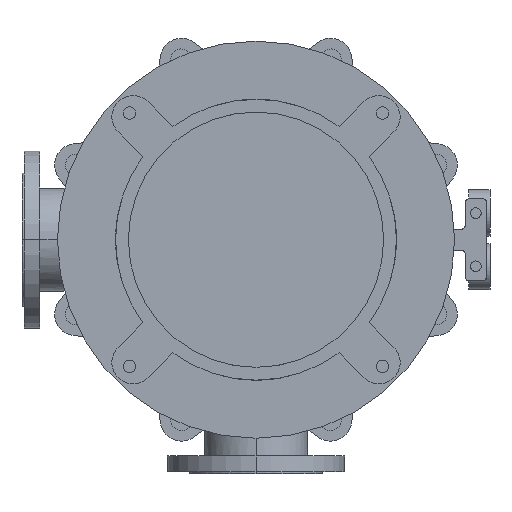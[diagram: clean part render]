
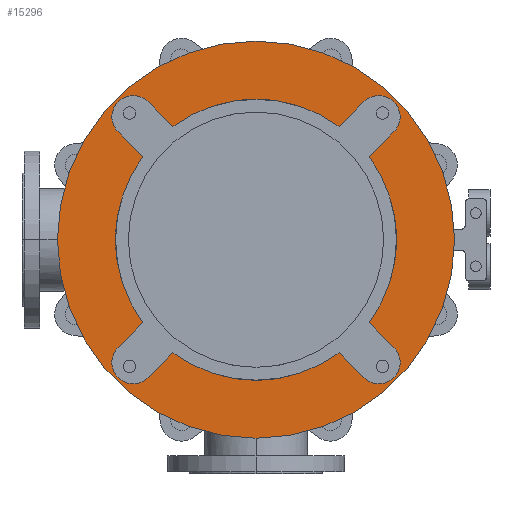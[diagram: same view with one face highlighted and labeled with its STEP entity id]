
A CAD part, front view. The second image highlights one B-rep face of the part: STEP entity #15296.
In plain terms, the highlighted planar face has unit normal (0, -1, 0).
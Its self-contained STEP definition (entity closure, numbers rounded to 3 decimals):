
#4273=CARTESIAN_POINT('',(0.,-25.,0.));
#4274=DIRECTION('',(0.,1.,0.));
#4275=DIRECTION('',(0.592,0.,-0.806));
#4276=AXIS2_PLACEMENT_3D('',#4273,#4274,#4275);
#4291=CARTESIAN_POINT('',(0.,-25.,0.));
#4292=DIRECTION('',(0.,1.,0.));
#4293=DIRECTION('',(0.806,0.,0.592));
#4294=AXIS2_PLACEMENT_3D('',#4291,#4292,#4293);
#4318=CARTESIAN_POINT('',(0.,-25.,0.));
#4319=DIRECTION('',(0.,1.,0.));
#4320=DIRECTION('',(-0.806,0.,-0.592));
#4321=AXIS2_PLACEMENT_3D('',#4318,#4319,#4320);
#4327=CARTESIAN_POINT('',(0.,-25.,0.));
#4328=DIRECTION('',(0.,1.,0.));
#4329=DIRECTION('',(-0.592,0.,0.806));
#4330=AXIS2_PLACEMENT_3D('',#4327,#4328,#4329);
#4505=CARTESIAN_POINT('',(0.,-25.,0.));
#4506=DIRECTION('',(0.,-1.,0.));
#4507=DIRECTION('',(-1.,0.,0.));
#4508=AXIS2_PLACEMENT_3D('',#4505,#4506,#4507);
#4510=CARTESIAN_POINT('',(0.,-25.,0.));
#4511=DIRECTION('',(0.,1.,0.));
#4512=DIRECTION('',(-1.,0.,0.));
#4513=AXIS2_PLACEMENT_3D('',#4510,#4511,#4512);
#4515=CARTESIAN_POINT('',(-173.241,-25.,173.241));
#4516=DIRECTION('',(0.,-1.,0.));
#4517=DIRECTION('',(0.707,0.,0.707));
#4518=AXIS2_PLACEMENT_3D('',#4515,#4516,#4517);
#4520=DIRECTION('',(0.707,0.,-0.707));
#4521=VECTOR('',#4520,49.286);
#4522=CARTESIAN_POINT('',(-194.454,-25.,152.028));
#4523=LINE('',#4522,#4521);
#4524=DIRECTION('',(-0.707,0.,-0.707));
#4525=VECTOR('',#4524,49.286);
#4526=CARTESIAN_POINT('',(-159.604,-25.,-117.178));
#4527=LINE('',#4526,#4525);
#4528=CARTESIAN_POINT('',(-173.241,-25.,-173.241));
#4529=DIRECTION('',(0.,-1.,0.));
#4530=DIRECTION('',(-0.707,0.,0.707));
#4531=AXIS2_PLACEMENT_3D('',#4528,#4529,#4530);
#4533=DIRECTION('',(0.707,0.,0.707));
#4534=VECTOR('',#4533,49.286);
#4535=CARTESIAN_POINT('',(-152.028,-25.,-194.454));
#4536=LINE('',#4535,#4534);
#4537=DIRECTION('',(0.707,0.,-0.707));
#4538=VECTOR('',#4537,49.286);
#4539=CARTESIAN_POINT('',(117.178,-25.,-159.604));
#4540=LINE('',#4539,#4538);
#4541=CARTESIAN_POINT('',(173.241,-25.,-173.241));
#4542=DIRECTION('',(0.,-1.,0.));
#4543=DIRECTION('',(-0.707,0.,-0.707));
#4544=AXIS2_PLACEMENT_3D('',#4541,#4542,#4543);
#4546=DIRECTION('',(-0.707,0.,0.707));
#4547=VECTOR('',#4546,49.286);
#4548=CARTESIAN_POINT('',(194.454,-25.,-152.028));
#4549=LINE('',#4548,#4547);
#4550=DIRECTION('',(0.707,0.,0.707));
#4551=VECTOR('',#4550,49.286);
#4552=CARTESIAN_POINT('',(159.604,-25.,117.178));
#4553=LINE('',#4552,#4551);
#4554=CARTESIAN_POINT('',(173.241,-25.,173.241));
#4555=DIRECTION('',(0.,-1.,0.));
#4556=DIRECTION('',(0.707,0.,-0.707));
#4557=AXIS2_PLACEMENT_3D('',#4554,#4555,#4556);
#4559=DIRECTION('',(-0.707,0.,-0.707));
#4560=VECTOR('',#4559,49.286);
#4561=CARTESIAN_POINT('',(152.028,-25.,194.454));
#4562=LINE('',#4561,#4560);
#4563=DIRECTION('',(-0.707,0.,0.707));
#4564=VECTOR('',#4563,49.286);
#4565=CARTESIAN_POINT('',(-117.178,-25.,159.604));
#4566=LINE('',#4565,#4564);
#8338=CARTESIAN_POINT('',(-280.,-25.,0.));
#8339=CARTESIAN_POINT('',(280.,-25.,0.));
#8340=VERTEX_POINT('',#8338);
#8341=VERTEX_POINT('',#8339);
#8362=CARTESIAN_POINT('',(-194.454,-25.,-152.028));
#8363=CARTESIAN_POINT('',(-152.028,-25.,-194.454));
#8364=VERTEX_POINT('',#8362);
#8365=VERTEX_POINT('',#8363);
#8366=CARTESIAN_POINT('',(-117.178,-25.,-159.604));
#8367=VERTEX_POINT('',#8366);
#8368=CARTESIAN_POINT('',(-159.604,-25.,-117.178));
#8369=VERTEX_POINT('',#8368);
#8378=CARTESIAN_POINT('',(152.028,-25.,-194.454));
#8379=CARTESIAN_POINT('',(194.454,-25.,-152.028));
#8380=VERTEX_POINT('',#8378);
#8381=VERTEX_POINT('',#8379);
#8382=CARTESIAN_POINT('',(159.604,-25.,-117.178));
#8383=VERTEX_POINT('',#8382);
#8384=CARTESIAN_POINT('',(117.178,-25.,-159.604));
#8385=VERTEX_POINT('',#8384);
#8394=CARTESIAN_POINT('',(194.454,-25.,152.028));
#8395=CARTESIAN_POINT('',(152.028,-25.,194.454));
#8396=VERTEX_POINT('',#8394);
#8397=VERTEX_POINT('',#8395);
#8398=CARTESIAN_POINT('',(117.178,-25.,159.604));
#8399=VERTEX_POINT('',#8398);
#8400=CARTESIAN_POINT('',(159.604,-25.,117.178));
#8401=VERTEX_POINT('',#8400);
#8410=CARTESIAN_POINT('',(-152.028,-25.,194.454));
#8411=CARTESIAN_POINT('',(-194.454,-25.,152.028));
#8412=VERTEX_POINT('',#8410);
#8413=VERTEX_POINT('',#8411);
#8414=CARTESIAN_POINT('',(-159.604,-25.,117.178));
#8415=VERTEX_POINT('',#8414);
#8416=CARTESIAN_POINT('',(-117.178,-25.,159.604));
#8417=VERTEX_POINT('',#8416);
#15256=CARTESIAN_POINT('',(0.,-25.,0.));
#15257=DIRECTION('',(0.,-1.,0.));
#15258=DIRECTION('',(-1.,0.,0.));
#15259=AXIS2_PLACEMENT_3D('',#15256,#15257,#15258);
#15260=PLANE('',#15259);
#15262=ORIENTED_EDGE('',*,*,#15261,.F.);
#15264=ORIENTED_EDGE('',*,*,#15263,.T.);
#15265=EDGE_LOOP('',(#15262,#15264));
#15266=FACE_OUTER_BOUND('',#15265,.F.);
#15268=ORIENTED_EDGE('',*,*,#15267,.T.);
#15270=ORIENTED_EDGE('',*,*,#15269,.T.);
#15271=ORIENTED_EDGE('',*,*,#15209,.F.);
#15273=ORIENTED_EDGE('',*,*,#15272,.T.);
#15275=ORIENTED_EDGE('',*,*,#15274,.T.);
#15277=ORIENTED_EDGE('',*,*,#15276,.T.);
#15278=ORIENTED_EDGE('',*,*,#15162,.F.);
#15279=ORIENTED_EDGE('',*,*,#15246,.T.);
#15281=ORIENTED_EDGE('',*,*,#15280,.T.);
#15283=ORIENTED_EDGE('',*,*,#15282,.T.);
#15284=ORIENTED_EDGE('',*,*,#15183,.F.);
#15286=ORIENTED_EDGE('',*,*,#15285,.T.);
#15288=ORIENTED_EDGE('',*,*,#15287,.T.);
#15290=ORIENTED_EDGE('',*,*,#15289,.T.);
#15291=ORIENTED_EDGE('',*,*,#15227,.F.);
#15293=ORIENTED_EDGE('',*,*,#15292,.T.);
#15294=EDGE_LOOP('',(#15268,#15270,#15271,#15273,#15275,#15277,#15278,#15279,
#15281,#15283,#15284,#15286,#15288,#15290,#15291,#15293));
#15295=FACE_BOUND('',#15294,.F.);
#15296=ADVANCED_FACE('',(#15266,#15295),#15260,.T.);
#4277=CIRCLE('',#4276,198.);
#4295=CIRCLE('',#4294,198.);
#4322=CIRCLE('',#4321,198.);
#4331=CIRCLE('',#4330,198.);
#4509=CIRCLE('',#4508,280.);
#4514=CIRCLE('',#4513,280.);
#4519=CIRCLE('',#4518,30.);
#4532=CIRCLE('',#4531,30.);
#4545=CIRCLE('',#4544,30.);
#4558=CIRCLE('',#4557,30.);
#15162=EDGE_CURVE('',#8385,#8367,#4277,.T.);
#15183=EDGE_CURVE('',#8401,#8383,#4295,.T.);
#15209=EDGE_CURVE('',#8369,#8415,#4322,.T.);
#15227=EDGE_CURVE('',#8417,#8399,#4331,.T.);
#15246=EDGE_CURVE('',#8385,#8380,#4540,.T.);
#15261=EDGE_CURVE('',#8340,#8341,#4509,.T.);
#15263=EDGE_CURVE('',#8340,#8341,#4514,.T.);
#15267=EDGE_CURVE('',#8412,#8413,#4519,.T.);
#15269=EDGE_CURVE('',#8413,#8415,#4523,.T.);
#15272=EDGE_CURVE('',#8369,#8364,#4527,.T.);
#15274=EDGE_CURVE('',#8364,#8365,#4532,.T.);
#15276=EDGE_CURVE('',#8365,#8367,#4536,.T.);
#15280=EDGE_CURVE('',#8380,#8381,#4545,.T.);
#15282=EDGE_CURVE('',#8381,#8383,#4549,.T.);
#15285=EDGE_CURVE('',#8401,#8396,#4553,.T.);
#15287=EDGE_CURVE('',#8396,#8397,#4558,.T.);
#15289=EDGE_CURVE('',#8397,#8399,#4562,.T.);
#15292=EDGE_CURVE('',#8417,#8412,#4566,.T.);
